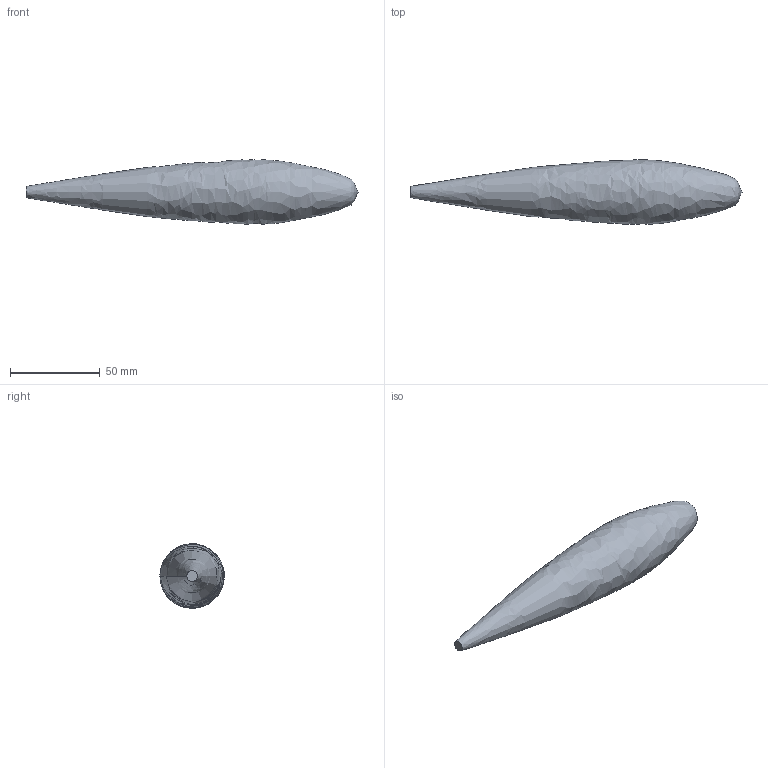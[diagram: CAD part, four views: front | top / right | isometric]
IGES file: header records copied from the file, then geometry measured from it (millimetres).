
Global section: file name: No Iges File Name specified; native system: AutoDesk Inventor R6.1; preprocessor: AutoDesk Inventor Iges Exporter R6.1; author: No Author specified; organization: No Organization specified; date: 20050823.145203; units: millimetre
Bounding box: 185 x 35.93 x 35.94 mm (x, y, z)
Surface area: 15046.6 mm2 (no closed solid volume)
Topology: 0 solids, 0 shells, 2 faces, 5 edges, 3 vertices
Faces by surface type: bspline 1, plane 1
